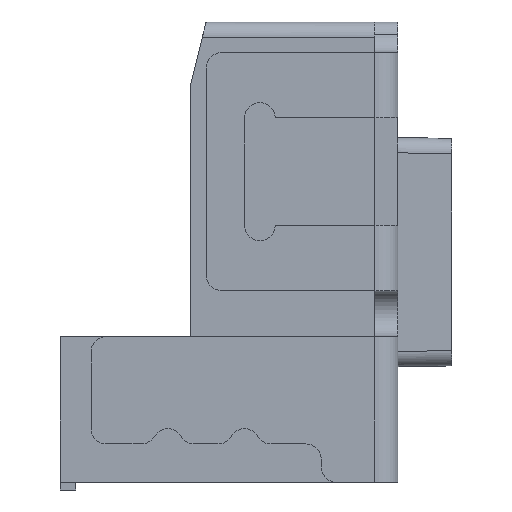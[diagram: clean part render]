
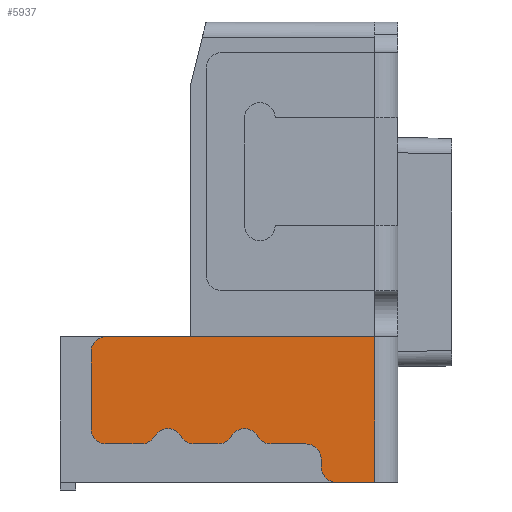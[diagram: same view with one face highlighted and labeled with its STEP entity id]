
A CAD part, left-side view. The second image highlights one B-rep face of the part: STEP entity #5937.
In plain terms, the highlighted planar face has unit normal (-1, 0, 0).
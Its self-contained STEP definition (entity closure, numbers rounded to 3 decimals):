
#4064=DIRECTION('',(0.,0.,1.));
#4065=VECTOR('',#4064,0.95);
#4066=CARTESIAN_POINT('',(-2.45,0.,-1.5));
#4067=LINE('',#4066,#4065);
#4082=CARTESIAN_POINT('',(-2.45,0.25,-1.4));
#4083=DIRECTION('',(-1.,0.,0.));
#4084=DIRECTION('',(0.,1.,0.));
#4085=AXIS2_PLACEMENT_3D('',#4082,#4083,#4084);
#4087=DIRECTION('',(0.,0.,-1.));
#4088=VECTOR('',#4087,0.05);
#4089=CARTESIAN_POINT('',(-2.45,0.35,-1.35));
#4090=LINE('',#4089,#4088);
#4091=DIRECTION('',(0.,-1.,0.));
#4092=VECTOR('',#4091,0.227);
#4093=CARTESIAN_POINT('',(-2.45,0.677,-1.25));
#4094=LINE('',#4093,#4092);
#4095=CARTESIAN_POINT('',(-2.45,0.677,-1.15));
#4096=DIRECTION('',(-1.,0.,0.));
#4097=DIRECTION('',(0.,0.866,-0.5));
#4098=AXIS2_PLACEMENT_3D('',#4095,#4096,#4097);
#4100=CARTESIAN_POINT('',(-2.45,0.85,-1.25));
#4101=DIRECTION('',(1.,0.,0.));
#4102=DIRECTION('',(0.,0.866,0.5));
#4103=AXIS2_PLACEMENT_3D('',#4100,#4101,#4102);
#4105=CARTESIAN_POINT('',(-2.45,1.023,-1.15));
#4106=DIRECTION('',(-1.,0.,0.));
#4107=DIRECTION('',(0.,0.,-1.));
#4108=AXIS2_PLACEMENT_3D('',#4105,#4106,#4107);
#4110=DIRECTION('',(0.,-1.,0.));
#4111=VECTOR('',#4110,0.154);
#4112=CARTESIAN_POINT('',(-2.45,1.177,-1.25));
#4113=LINE('',#4112,#4111);
#4114=CARTESIAN_POINT('',(-2.45,1.177,-1.15));
#4115=DIRECTION('',(-1.,0.,0.));
#4116=DIRECTION('',(0.,0.866,-0.5));
#4117=AXIS2_PLACEMENT_3D('',#4114,#4115,#4116);
#4119=CARTESIAN_POINT('',(-2.45,1.35,-1.25));
#4120=DIRECTION('',(1.,0.,0.));
#4121=DIRECTION('',(0.,0.866,0.5));
#4122=AXIS2_PLACEMENT_3D('',#4119,#4120,#4121);
#4124=CARTESIAN_POINT('',(-2.45,1.523,-1.15));
#4125=DIRECTION('',(-1.,0.,0.));
#4126=DIRECTION('',(0.,0.,-1.));
#4127=AXIS2_PLACEMENT_3D('',#4124,#4125,#4126);
#4129=DIRECTION('',(0.,-1.,0.));
#4130=VECTOR('',#4129,0.227);
#4131=CARTESIAN_POINT('',(-2.45,1.75,-1.25));
#4132=LINE('',#4131,#4130);
#4133=CARTESIAN_POINT('',(-2.45,1.75,-1.15));
#4134=DIRECTION('',(-1.,0.,0.));
#4135=DIRECTION('',(0.,1.,0.));
#4136=AXIS2_PLACEMENT_3D('',#4133,#4134,#4135);
#4138=DIRECTION('',(0.,0.,-1.));
#4139=VECTOR('',#4138,0.5);
#4140=CARTESIAN_POINT('',(-2.45,1.85,-0.65));
#4141=LINE('',#4140,#4139);
#4142=CARTESIAN_POINT('',(-2.45,1.75,-0.65));
#4143=DIRECTION('',(-1.,0.,0.));
#4144=DIRECTION('',(0.,0.,1.));
#4145=AXIS2_PLACEMENT_3D('',#4142,#4143,#4144);
#4147=DIRECTION('',(0.,1.,0.));
#4148=VECTOR('',#4147,1.75);
#4149=CARTESIAN_POINT('',(-2.45,0.,-0.55));
#4150=LINE('',#4149,#4148);
#4151=DIRECTION('',(0.,-1.,0.));
#4152=VECTOR('',#4151,0.25);
#4153=CARTESIAN_POINT('',(-2.45,0.25,-1.5));
#4154=LINE('',#4153,#4152);
#4884=CARTESIAN_POINT('',(-2.45,0.45,-1.35));
#4885=DIRECTION('',(1.,0.,0.));
#4886=DIRECTION('',(0.,0.,1.));
#4887=AXIS2_PLACEMENT_3D('',#4884,#4885,#4886);
#5030=CARTESIAN_POINT('',(-2.45,0.,-1.5));
#5031=CARTESIAN_POINT('',(-2.45,0.,-0.55));
#5032=VERTEX_POINT('',#5030);
#5033=VERTEX_POINT('',#5031);
#5042=CARTESIAN_POINT('',(-2.45,0.45,-1.25));
#5044=VERTEX_POINT('',#5042);
#5046=CARTESIAN_POINT('',(-2.45,0.35,-1.35));
#5048=VERTEX_POINT('',#5046);
#5114=CARTESIAN_POINT('',(-2.45,0.35,-1.4));
#5115=CARTESIAN_POINT('',(-2.45,0.25,-1.5));
#5116=VERTEX_POINT('',#5114);
#5117=VERTEX_POINT('',#5115);
#5122=CARTESIAN_POINT('',(-2.45,0.763,-1.2));
#5123=CARTESIAN_POINT('',(-2.45,0.677,-1.25));
#5124=VERTEX_POINT('',#5122);
#5125=VERTEX_POINT('',#5123);
#5130=CARTESIAN_POINT('',(-2.45,1.023,-1.25));
#5131=CARTESIAN_POINT('',(-2.45,0.937,-1.2));
#5132=VERTEX_POINT('',#5130);
#5133=VERTEX_POINT('',#5131);
#5138=CARTESIAN_POINT('',(-2.45,1.263,-1.2));
#5139=CARTESIAN_POINT('',(-2.45,1.177,-1.25));
#5140=VERTEX_POINT('',#5138);
#5141=VERTEX_POINT('',#5139);
#5146=CARTESIAN_POINT('',(-2.45,1.523,-1.25));
#5147=CARTESIAN_POINT('',(-2.45,1.437,-1.2));
#5148=VERTEX_POINT('',#5146);
#5149=VERTEX_POINT('',#5147);
#5154=CARTESIAN_POINT('',(-2.45,1.85,-1.15));
#5155=CARTESIAN_POINT('',(-2.45,1.75,-1.25));
#5156=VERTEX_POINT('',#5154);
#5157=VERTEX_POINT('',#5155);
#5162=CARTESIAN_POINT('',(-2.45,1.75,-0.55));
#5163=CARTESIAN_POINT('',(-2.45,1.85,-0.65));
#5164=VERTEX_POINT('',#5162);
#5165=VERTEX_POINT('',#5163);
#5895=CARTESIAN_POINT('',(-2.45,-0.15,-0.776));
#5896=DIRECTION('',(-1.,0.,0.));
#5897=DIRECTION('',(0.,0.,1.));
#5898=AXIS2_PLACEMENT_3D('',#5895,#5896,#5897);
#5899=PLANE('',#5898);
#5901=ORIENTED_EDGE('',*,*,#5900,.F.);
#5903=ORIENTED_EDGE('',*,*,#5902,.F.);
#5905=ORIENTED_EDGE('',*,*,#5904,.F.);
#5907=ORIENTED_EDGE('',*,*,#5906,.F.);
#5909=ORIENTED_EDGE('',*,*,#5908,.F.);
#5911=ORIENTED_EDGE('',*,*,#5910,.F.);
#5913=ORIENTED_EDGE('',*,*,#5912,.F.);
#5915=ORIENTED_EDGE('',*,*,#5914,.F.);
#5917=ORIENTED_EDGE('',*,*,#5916,.F.);
#5919=ORIENTED_EDGE('',*,*,#5918,.F.);
#5921=ORIENTED_EDGE('',*,*,#5920,.F.);
#5923=ORIENTED_EDGE('',*,*,#5922,.F.);
#5925=ORIENTED_EDGE('',*,*,#5924,.F.);
#5927=ORIENTED_EDGE('',*,*,#5926,.F.);
#5929=ORIENTED_EDGE('',*,*,#5928,.F.);
#5931=ORIENTED_EDGE('',*,*,#5930,.F.);
#5932=ORIENTED_EDGE('',*,*,#5886,.F.);
#5934=ORIENTED_EDGE('',*,*,#5933,.F.);
#5935=EDGE_LOOP('',(#5901,#5903,#5905,#5907,#5909,#5911,#5913,#5915,#5917,#5919,
#5921,#5923,#5925,#5927,#5929,#5931,#5932,#5934));
#5936=FACE_OUTER_BOUND('',#5935,.F.);
#4086=CIRCLE('',#4085,0.1);
#4099=CIRCLE('',#4098,0.1);
#4104=CIRCLE('',#4103,0.1);
#4109=CIRCLE('',#4108,0.1);
#4118=CIRCLE('',#4117,0.1);
#4123=CIRCLE('',#4122,0.1);
#4128=CIRCLE('',#4127,0.1);
#4137=CIRCLE('',#4136,0.1);
#4146=CIRCLE('',#4145,0.1);
#4888=CIRCLE('',#4887,0.1);
#5886=EDGE_CURVE('',#5032,#5033,#4067,.T.);
#5900=EDGE_CURVE('',#5116,#5117,#4086,.T.);
#5902=EDGE_CURVE('',#5048,#5116,#4090,.T.);
#5904=EDGE_CURVE('',#5044,#5048,#4888,.T.);
#5906=EDGE_CURVE('',#5125,#5044,#4094,.T.);
#5908=EDGE_CURVE('',#5124,#5125,#4099,.T.);
#5910=EDGE_CURVE('',#5133,#5124,#4104,.T.);
#5912=EDGE_CURVE('',#5132,#5133,#4109,.T.);
#5914=EDGE_CURVE('',#5141,#5132,#4113,.T.);
#5916=EDGE_CURVE('',#5140,#5141,#4118,.T.);
#5918=EDGE_CURVE('',#5149,#5140,#4123,.T.);
#5920=EDGE_CURVE('',#5148,#5149,#4128,.T.);
#5922=EDGE_CURVE('',#5157,#5148,#4132,.T.);
#5924=EDGE_CURVE('',#5156,#5157,#4137,.T.);
#5926=EDGE_CURVE('',#5165,#5156,#4141,.T.);
#5928=EDGE_CURVE('',#5164,#5165,#4146,.T.);
#5930=EDGE_CURVE('',#5033,#5164,#4150,.T.);
#5933=EDGE_CURVE('',#5117,#5032,#4154,.T.);
#5937=ADVANCED_FACE('',(#5936),#5899,.T.);
